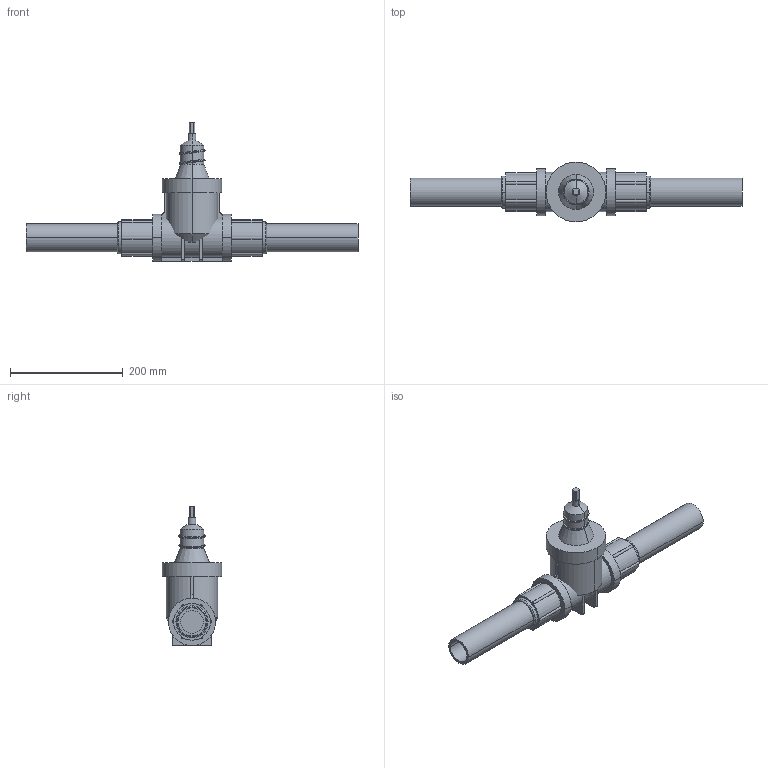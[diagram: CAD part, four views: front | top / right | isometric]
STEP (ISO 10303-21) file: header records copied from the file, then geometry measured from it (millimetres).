
FILE_DESCRIPTION(('STEP AP214'),'1');
FILE_NAME('S:/EK/USER/CAT6/3DHomepage/2670/2670-PN10-DN40.STP','2012-04-25T11:08:24',(' '),(' '),'Spatial InterOp 3D',' ',' ');
FILE_SCHEMA(('automotive_design'));
Length unit declared in the file: millimetre
Products named in the file (36): 3D-Objekt
Bounding box: 590 x 106 x 247 mm (x, y, z)
Volume: 2142095.4 mm3; surface area: 334553.6 mm2
Topology: 36 solids, 36 shells, 196 faces, 374 edges, 250 vertices
Faces by surface type: plane 114, cylinder 60, torus 16, cone 6
Entity records: 7438 total; most frequent: DIRECTION 1020, CARTESIAN_POINT 856, ORIENTED_EDGE 748, AXIS2_PLACEMENT_3D 414, EDGE_CURVE 374, VERTEX_POINT 250, STYLED_ITEM 232, PRESENTATION_STYLE_ASSIGNMENT 232
